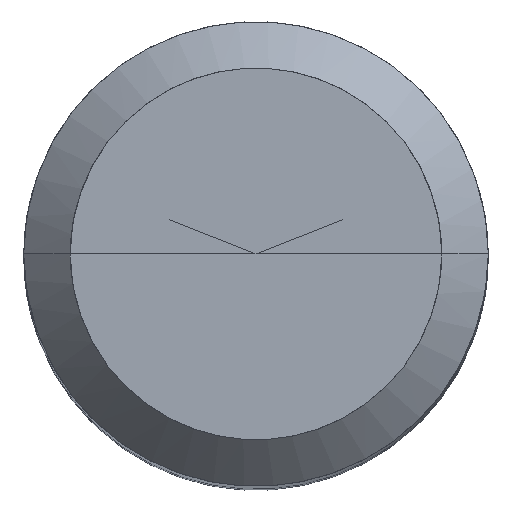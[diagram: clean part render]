
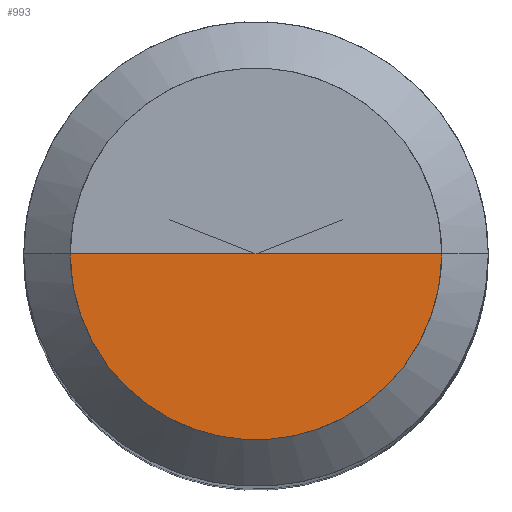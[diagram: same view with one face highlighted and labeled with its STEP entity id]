
A CAD part, top view. The second image highlights one B-rep face of the part: STEP entity #993.
In plain terms, the highlighted free-form (B-spline) face has degree [1, 2] with [2, 5] control points.
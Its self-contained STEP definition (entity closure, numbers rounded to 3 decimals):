
#725=CARTESIAN_POINT('',(6.4,0.0,54.0));
#729=CARTESIAN_POINT('',(-6.4,0.0,54.0));
#730=CARTESIAN_POINT('',(0.0,0.0,54.0));
#734=CARTESIAN_POINT('',(-6.4,-6.4,54.0));
#735=CARTESIAN_POINT('',(0.0,-6.4,54.0));
#736=CARTESIAN_POINT('',(6.4,-6.4,54.0));
#978=(
BOUNDED_SURFACE()
B_SPLINE_SURFACE(1,2,(
(#729,#734,#735,#736,#725),
(#730,#730,#730,#730,#730)
), .UNSPECIFIED.,.F.,.F.,.F.)
B_SPLINE_SURFACE_WITH_KNOTS((2,2),(3,2,3),(
0.0,1.0),(
0.0,0.5,1.0), .UNSPECIFIED.)
GEOMETRIC_REPRESENTATION_ITEM()
RATIONAL_B_SPLINE_SURFACE(((1.0,0.707,1.0,0.707,1.0),
(1.0,0.707,1.0,0.707,1.0)
))
REPRESENTATION_ITEM('')
SURFACE()
);
#979=(
BOUNDED_CURVE()
B_SPLINE_CURVE(2,(#725,#736,#735,#734,#729),.UNSPECIFIED.,.F.,.F.)
B_SPLINE_CURVE_WITH_KNOTS((3,2,3),
(0.0,0.5,1.0),.UNSPECIFIED.)
CURVE()
GEOMETRIC_REPRESENTATION_ITEM()
RATIONAL_B_SPLINE_CURVE((1.0,0.707,1.0,0.707,1.0))
REPRESENTATION_ITEM('')
);
#980=(
BOUNDED_CURVE()
B_SPLINE_CURVE(1,(#729,#730),.UNSPECIFIED.,.F.,.F.)
B_SPLINE_CURVE_WITH_KNOTS((2,2),
(0.0,1.0),.UNSPECIFIED.)
CURVE()
GEOMETRIC_REPRESENTATION_ITEM()
RATIONAL_B_SPLINE_CURVE((1.0,1.0))
REPRESENTATION_ITEM('')
);
#981=(
BOUNDED_CURVE()
B_SPLINE_CURVE(1,(#730,#725),.UNSPECIFIED.,.F.,.F.)
B_SPLINE_CURVE_WITH_KNOTS((2,2),
(0.0,1.0),.UNSPECIFIED.)
CURVE()
GEOMETRIC_REPRESENTATION_ITEM()
RATIONAL_B_SPLINE_CURVE((1.0,1.0))
REPRESENTATION_ITEM('')
);
#982=VERTEX_POINT('',#725);
#983=VERTEX_POINT('',#729);
#984=VERTEX_POINT('',#730);
#985=EDGE_CURVE('',#982,#983,#979,.T.);
#986=EDGE_CURVE('',#983,#984,#980,.T.);
#987=EDGE_CURVE('',#984,#982,#981,.T.);
#988=ORIENTED_EDGE('',*,*,#985,.T.);
#989=ORIENTED_EDGE('',*,*,#986,.T.);
#990=ORIENTED_EDGE('',*,*,#987,.T.);
#991=EDGE_LOOP('',(#988,#989,#990));
#992=FACE_OUTER_BOUND('',#991,.T.);
#993=ADVANCED_FACE('',(#992),#978,.T.);
